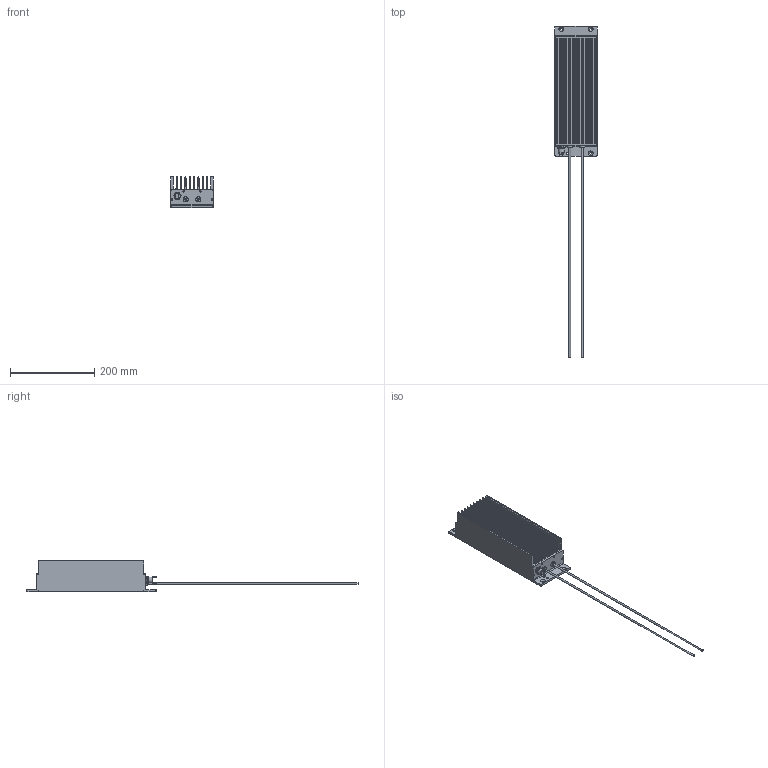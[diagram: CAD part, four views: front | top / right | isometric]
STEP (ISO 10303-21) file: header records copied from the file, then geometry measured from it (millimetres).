
FILE_DESCRIPTION(/* description */ (''),/* implementation_level */ '2;1');
FILE_NAME(/* name */ 'C:\_Vault\Dati\CATALOGO\RDF\RDFT1100.stp',/* time_stamp */ '2014-03-25T14:04:49+01:00',/* author */ ('stefano'),/* organization */ (''),/* preprocessor_version */ 'ST-DEVELOPER v15.2',/* originating_system */ 'Autodesk Inventor 2014',/* authorisation */ '');
FILE_SCHEMA (('AUTOMOTIVE_DESIGN { 1 0 10303 214 3 1 1 }'));
Length unit declared in the file: millimetre
Products named in the file (1): RDFT1100
Bounding box: 100 x 789 x 75 mm (x, y, z)
Volume: 724646.3 mm3; surface area: 359287.3 mm2
Topology: 3 solids, 3 shells, 1267 faces, 3708 edges, 2472 vertices
Faces by surface type: plane 1165, cylinder 89, cone 13
Full cylindrical faces by diameter (mm): 1.8 x2, 2.65 x8, 3.2 x8, 4 x3, 4.917 x1, 5.5 x4, 12 x2, 12.5 x2, 13.6 x1, 14.1 x1, 15.6 x1
Entity records: 42163 total; most frequent: CARTESIAN_POINT 7350, ORIENTED_EDGE 7272, DIRECTION 6358, EDGE_CURVE 3636, LINE 3450, VECTOR 3450, VERTEX_POINT 2446, AXIS2_PLACEMENT_3D 1454
